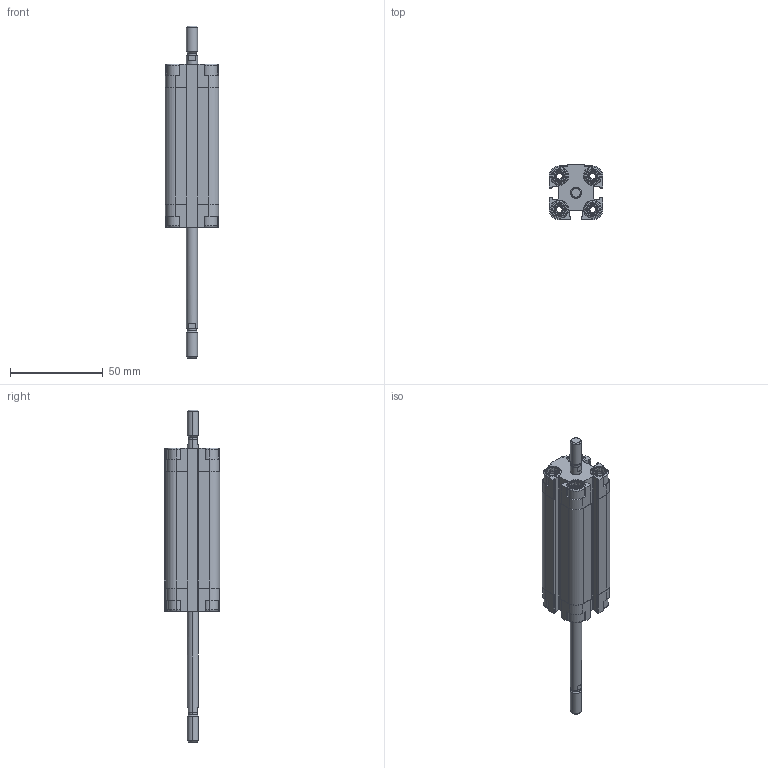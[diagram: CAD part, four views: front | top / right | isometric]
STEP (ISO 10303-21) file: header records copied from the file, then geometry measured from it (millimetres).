
FILE_DESCRIPTION (( 'STEP AP203' ), '1' );
FILE_NAME ('CDVU12-50M-P.STEP', '2020-07-21T14:57:02', ( '' ), ( '' ), 'SwSTEP 2.0', 'SolidWorks 2019', '' );
FILE_SCHEMA (( 'CONFIG_CONTROL_DESIGN' ));
Length unit declared in the file: millimetre
Products named in the file (1): CDVU12-50M-P
Bounding box: 29 x 30 x 179 mm (x, y, z)
Volume: 53385.6 mm3; surface area: 28168.6 mm2
Topology: 2 solids, 2 shells, 566 faces, 1504 edges, 978 vertices
Faces by surface type: plane 338, cylinder 164, cone 48, torus 16
Entity records: 17771 total; most frequent: CARTESIAN_POINT 3621, ORIENTED_EDGE 3000, DIRECTION 2850, EDGE_CURVE 1500, VERTEX_POINT 978, AXIS2_PLACEMENT_3D 975, VECTOR 900, LINE 900
